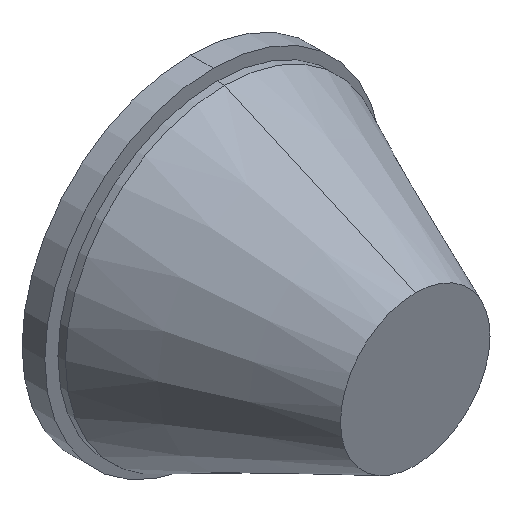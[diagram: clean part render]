
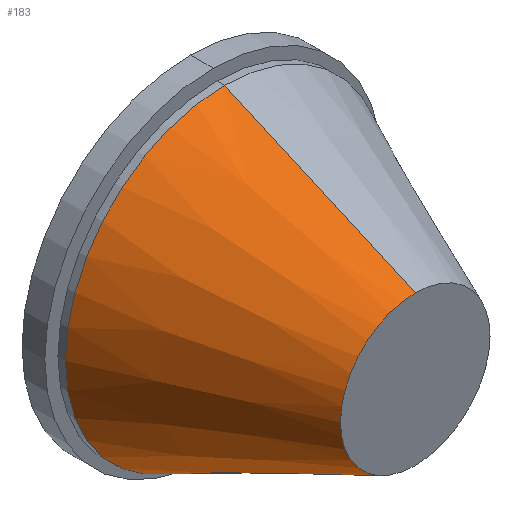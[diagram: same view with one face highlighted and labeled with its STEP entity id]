
A CAD part, isometric view. The second image highlights one B-rep face of the part: STEP entity #183.
In plain terms, the highlighted conical face has half-angle 23.827 degrees and reference radius 19.977 mm.
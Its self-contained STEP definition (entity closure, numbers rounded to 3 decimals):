
#69 = ORIENTED_EDGE ( 'NONE', *, *, #210, .F. ) ;
#71 = ORIENTED_EDGE ( 'NONE', *, *, #213, .T. ) ;
#72 = VERTEX_POINT ( 'NONE', #323 ) ;
#74 = VERTEX_POINT ( 'NONE', #321 ) ;
#78 = ORIENTED_EDGE ( 'NONE', *, *, #211, .T. ) ;
#81 = VERTEX_POINT ( 'NONE', #319 ) ;
#82 = ORIENTED_EDGE ( 'NONE', *, *, #212, .F. ) ;
#92 = VERTEX_POINT ( 'NONE', #324 ) ;
#107 = CIRCLE ( 'NONE', #227, 42.5 ) ;
#109 = CIRCLE ( 'NONE', #231, 19.977 ) ;
#112 = FACE_OUTER_BOUND ( 'NONE', #139, .T. ) ;
#113 = LINE ( 'NONE', #305, #115 ) ;
#115 = VECTOR ( 'NONE', #307, 1000. ) ;
#116 = VECTOR ( 'NONE', #297, 1000. ) ;
#139 = EDGE_LOOP ( 'NONE', ( #69, #82, #78, #71 ) ) ;
#151 = CONICAL_SURFACE ( 'NONE', #225, 19.977, 0.416 ) ;
#166 = LINE ( 'NONE', #299, #116 ) ;
#183 = ADVANCED_FACE ( 'NONE', ( #112 ), #151, .T. ) ;
#210 = EDGE_CURVE ( 'NONE', #92, #81, #166, .T. ) ;
#211 = EDGE_CURVE ( 'NONE', #74, #72, #113, .T. ) ;
#212 = EDGE_CURVE ( 'NONE', #74, #92, #109, .T. ) ;
#213 = EDGE_CURVE ( 'NONE', #72, #81, #107, .T. ) ;
#225 = AXIS2_PLACEMENT_3D ( 'NONE', #293, #269, #275 ) ;
#227 = AXIS2_PLACEMENT_3D ( 'NONE', #257, #256, #255 ) ;
#231 = AXIS2_PLACEMENT_3D ( 'NONE', #243, #250, #247 ) ;
#243 = CARTESIAN_POINT ( 'NONE',  ( 0., 0., 0. ) ) ;
#247 = DIRECTION ( 'NONE',  ( 0., 0., -1. ) ) ;
#250 = DIRECTION ( 'NONE',  ( 0., -1., 0. ) ) ;
#255 = DIRECTION ( 'NONE',  ( 0., 0., -1. ) ) ;
#256 = DIRECTION ( 'NONE',  ( 0., -1., 0. ) ) ;
#257 = CARTESIAN_POINT ( 'NONE',  ( 0., 51., 0. ) ) ;
#269 = DIRECTION ( 'NONE',  ( 0., 1., 0. ) ) ;
#275 = DIRECTION ( 'NONE',  ( 0., 0., 1. ) ) ;
#293 = CARTESIAN_POINT ( 'NONE',  ( 0., 0., 0. ) ) ;
#297 = DIRECTION ( 'NONE',  ( 0., 0.915, -0.404 ) ) ;
#299 = CARTESIAN_POINT ( 'NONE',  ( 0., 0., -19.977 ) ) ;
#305 = CARTESIAN_POINT ( 'NONE',  ( 0., 0., 19.977 ) ) ;
#307 = DIRECTION ( 'NONE',  ( 0., 0.915, 0.404 ) ) ;
#319 = CARTESIAN_POINT ( 'NONE',  ( 0., 51., -42.5 ) ) ;
#321 = CARTESIAN_POINT ( 'NONE',  ( 0., 0., 19.977 ) ) ;
#323 = CARTESIAN_POINT ( 'NONE',  ( 0., 51., 42.5 ) ) ;
#324 = CARTESIAN_POINT ( 'NONE',  ( 0., 0., -19.977 ) ) ;
